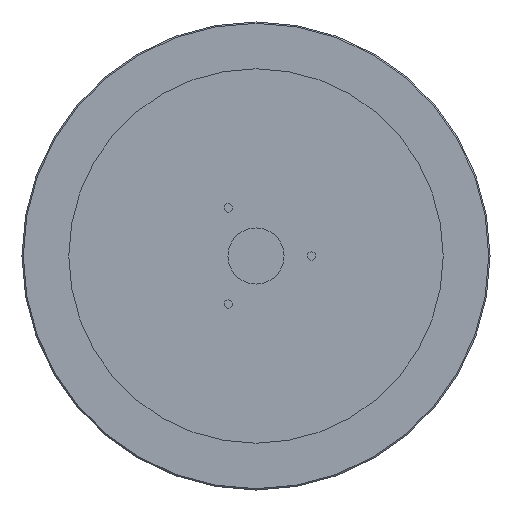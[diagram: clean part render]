
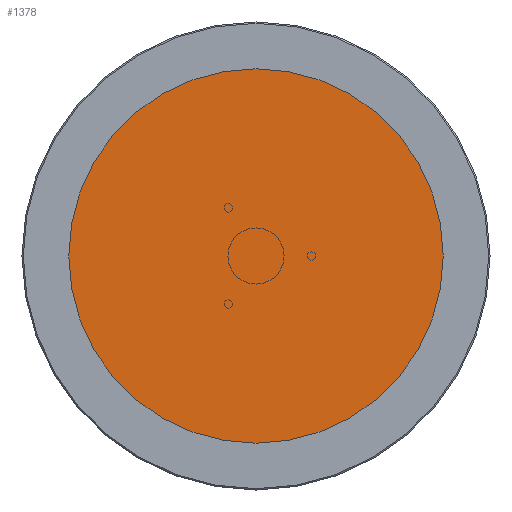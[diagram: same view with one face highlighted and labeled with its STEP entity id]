
A CAD part, front view. The second image highlights one B-rep face of the part: STEP entity #1378.
In plain terms, the highlighted planar face has unit normal (0, -1, 0).
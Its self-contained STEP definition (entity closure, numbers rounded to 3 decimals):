
#179 = CARTESIAN_POINT ( 'NONE',  ( 0., -6., 0. ) ) ;
#225 = PLANE ( 'NONE',  #1931 ) ;
#410 = CIRCLE ( 'NONE', #1260, 100. ) ;
#501 = DIRECTION ( 'NONE',  ( 0., 0., -1. ) ) ;
#707 = DIRECTION ( 'NONE',  ( 0., -1., 0. ) ) ;
#708 = EDGE_LOOP ( 'NONE', ( #1672 ) ) ;
#717 = FACE_OUTER_BOUND ( 'NONE', #708, .T. ) ;
#725 = DIRECTION ( 'NONE',  ( 0., 0., -1. ) ) ;
#1239 = EDGE_CURVE ( 'NONE', #1694, #1694, #410, .T. ) ;
#1260 = AXIS2_PLACEMENT_3D ( 'NONE', #1502, #1657, #501 ) ;
#1378 = ADVANCED_FACE ( 'NONE', ( #717 ), #225, .T. ) ;
#1502 = CARTESIAN_POINT ( 'NONE',  ( 0., -6., 0. ) ) ;
#1657 = DIRECTION ( 'NONE',  ( 0., -1., 0. ) ) ;
#1672 = ORIENTED_EDGE ( 'NONE', *, *, #1239, .T. ) ;
#1694 = VERTEX_POINT ( 'NONE', #1874 ) ;
#1874 = CARTESIAN_POINT ( 'NONE',  ( 0., -6., -100. ) ) ;
#1931 = AXIS2_PLACEMENT_3D ( 'NONE', #179, #707, #725 ) ;
